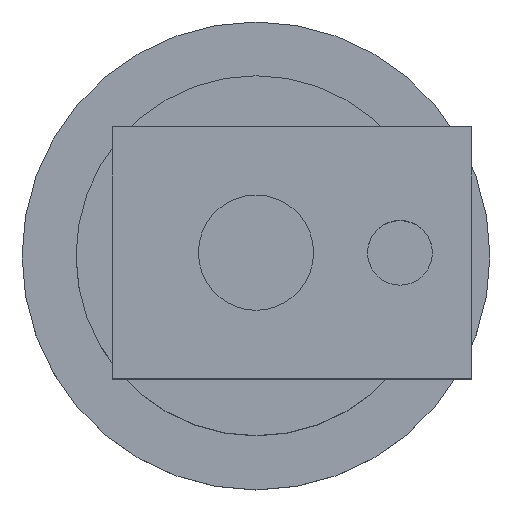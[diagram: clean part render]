
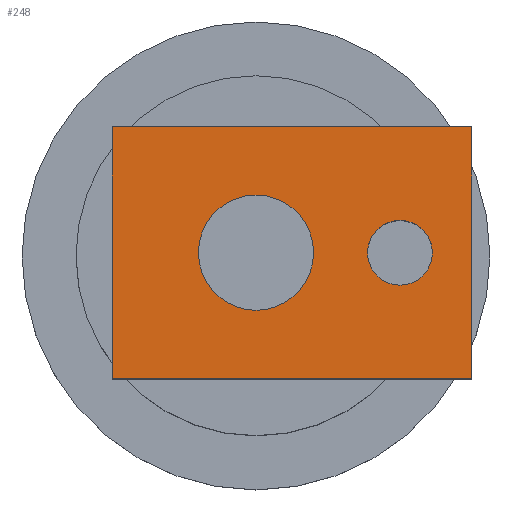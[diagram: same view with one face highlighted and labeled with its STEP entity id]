
A CAD part, top view. The second image highlights one B-rep face of the part: STEP entity #248.
In plain terms, the highlighted planar face has unit normal (0, 0, 1).
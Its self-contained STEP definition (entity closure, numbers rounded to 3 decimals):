
#81=CARTESIAN_POINT('Vertex',(13.,0.,20.)) ;
#84=CARTESIAN_POINT('Axis2P3D Location',(20.,0.,20.)) ;
#88=CARTESIAN_POINT('Vertex',(27.,0.,20.)) ;
#175=CARTESIAN_POINT('Axis2P3D Location',(20.,0.,20.)) ;
#187=CARTESIAN_POINT('Axis2P3D Location',(0.,-17.5,20.)) ;
#192=CARTESIAN_POINT('Line Origine',(0.,0.,20.)) ;
#196=CARTESIAN_POINT('Vertex',(0.,17.5,20.)) ;
#198=CARTESIAN_POINT('Vertex',(0.,-17.5,20.)) ;
#201=CARTESIAN_POINT('Line Origine',(25.,-17.5,20.)) ;
#205=CARTESIAN_POINT('Vertex',(50.,-17.5,20.)) ;
#208=CARTESIAN_POINT('Line Origine',(50.,0.,20.)) ;
#212=CARTESIAN_POINT('Vertex',(50.,17.5,20.)) ;
#215=CARTESIAN_POINT('Line Origine',(25.,17.5,20.)) ;
#230=CARTESIAN_POINT('Axis2P3D Location',(40.,0.,20.)) ;
#234=CARTESIAN_POINT('Vertex',(35.5,0.,20.)) ;
#236=CARTESIAN_POINT('Vertex',(44.5,0.,20.)) ;
#239=CARTESIAN_POINT('Axis2P3D Location',(40.,0.,20.)) ;
#85=DIRECTION('Axis2P3D Direction',(0.,-0.,1.)) ;
#176=DIRECTION('Axis2P3D Direction',(0.,-0.,1.)) ;
#188=DIRECTION('Axis2P3D Direction',(-0.,0.,1.)) ;
#189=DIRECTION('Axis2P3D XDirection',(1.,0.,0.)) ;
#193=DIRECTION('Vector Direction',(0.,-1.,0.)) ;
#202=DIRECTION('Vector Direction',(1.,0.,0.)) ;
#209=DIRECTION('Vector Direction',(0.,1.,0.)) ;
#216=DIRECTION('Vector Direction',(-1.,0.,0.)) ;
#231=DIRECTION('Axis2P3D Direction',(-0.,0.,1.)) ;
#240=DIRECTION('Axis2P3D Direction',(-0.,0.,1.)) ;
#86=AXIS2_PLACEMENT_3D('Circle Axis2P3D',#84,#85,$) ;
#177=AXIS2_PLACEMENT_3D('Circle Axis2P3D',#175,#176,$) ;
#190=AXIS2_PLACEMENT_3D('Plane Axis2P3D',#187,#188,#189) ;
#232=AXIS2_PLACEMENT_3D('Circle Axis2P3D',#230,#231,$) ;
#241=AXIS2_PLACEMENT_3D('Circle Axis2P3D',#239,#240,$) ;
#221=ORIENTED_EDGE('',*,*,#200,.T.) ;
#222=ORIENTED_EDGE('',*,*,#207,.T.) ;
#223=ORIENTED_EDGE('',*,*,#214,.T.) ;
#224=ORIENTED_EDGE('',*,*,#219,.T.) ;
#227=ORIENTED_EDGE('',*,*,#179,.F.) ;
#228=ORIENTED_EDGE('',*,*,#90,.F.) ;
#245=ORIENTED_EDGE('',*,*,#238,.F.) ;
#246=ORIENTED_EDGE('',*,*,#243,.F.) ;
#229=FACE_BOUND('',#226,.T.) ;
#247=FACE_BOUND('',#244,.T.) ;
#194=VECTOR('Line Direction',#193,1.) ;
#203=VECTOR('Line Direction',#202,1.) ;
#210=VECTOR('Line Direction',#209,1.) ;
#217=VECTOR('Line Direction',#216,1.) ;
#248=ADVANCED_FACE('NONE',(#225,#229,#247),#191,.T.) ;
#87=CIRCLE('generated circle',#86,7.) ;
#178=CIRCLE('generated circle',#177,7.) ;
#233=CIRCLE('generated circle',#232,4.5) ;
#242=CIRCLE('generated circle',#241,4.5) ;
#90=EDGE_CURVE('',#82,#89,#87,.T.) ;
#179=EDGE_CURVE('',#89,#82,#178,.T.) ;
#200=EDGE_CURVE('',#197,#199,#195,.T.) ;
#207=EDGE_CURVE('',#199,#206,#204,.T.) ;
#214=EDGE_CURVE('',#206,#213,#211,.T.) ;
#219=EDGE_CURVE('',#213,#197,#218,.T.) ;
#238=EDGE_CURVE('',#235,#237,#233,.T.) ;
#243=EDGE_CURVE('',#237,#235,#242,.T.) ;
#220=EDGE_LOOP('',(#221,#222,#223,#224)) ;
#226=EDGE_LOOP('',(#227,#228)) ;
#244=EDGE_LOOP('',(#245,#246)) ;
#225=FACE_OUTER_BOUND('',#220,.T.) ;
#195=LINE('Line',#192,#194) ;
#204=LINE('Line',#201,#203) ;
#211=LINE('Line',#208,#210) ;
#218=LINE('Line',#215,#217) ;
#191=PLANE('Plane',#190) ;
#82=VERTEX_POINT('',#81) ;
#89=VERTEX_POINT('',#88) ;
#197=VERTEX_POINT('',#196) ;
#199=VERTEX_POINT('',#198) ;
#206=VERTEX_POINT('',#205) ;
#213=VERTEX_POINT('',#212) ;
#235=VERTEX_POINT('',#234) ;
#237=VERTEX_POINT('',#236) ;
